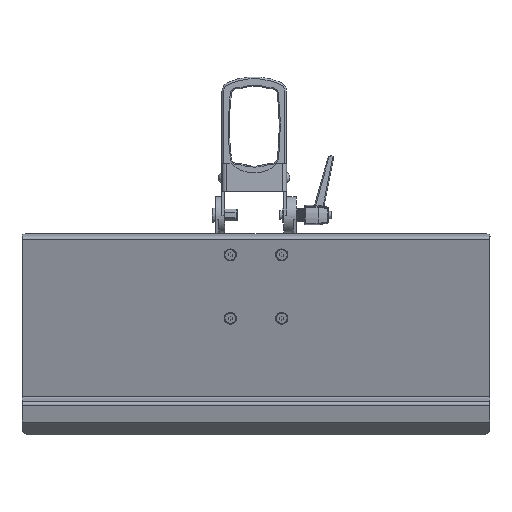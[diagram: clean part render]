
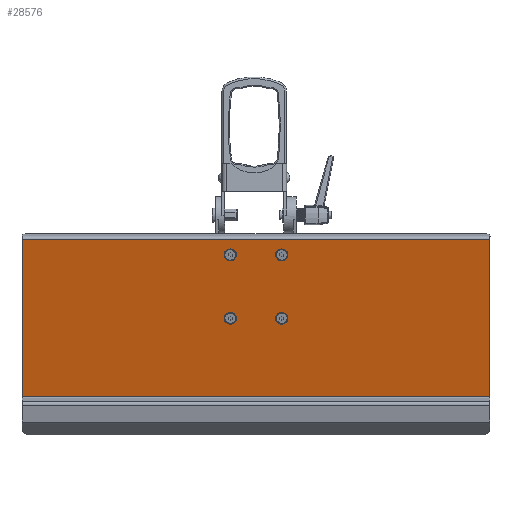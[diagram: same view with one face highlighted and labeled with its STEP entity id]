
A CAD part, top view. The second image highlights one B-rep face of the part: STEP entity #28576.
In plain terms, the highlighted planar face has unit normal (0, -0.259, 0.966).
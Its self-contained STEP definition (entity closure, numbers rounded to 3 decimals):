
#206 = DIRECTION ( 'NONE',  ( 0., -0.966, -0.259 ) ) ;
#541 = VECTOR ( 'NONE', #23973, 1000. ) ;
#1434 = ORIENTED_EDGE ( 'NONE', *, *, #23678, .F. ) ;
#1665 = CARTESIAN_POINT ( 'NONE',  ( 22.237, -132.443, 77.722 ) ) ;
#1977 = CIRCLE ( 'NONE', #47077, 6.6 ) ;
#4104 = CARTESIAN_POINT ( 'NONE',  ( -255.263, -217.444, 54.946 ) ) ;
#4485 = CARTESIAN_POINT ( 'NONE',  ( -32.763, -132.443, 77.722 ) ) ;
#5162 = VERTEX_POINT ( 'NONE', #39187 ) ;
#6418 = EDGE_CURVE ( 'NONE', #5162, #33157, #20151, .T. ) ;
#6985 = VECTOR ( 'NONE', #37243, 1000. ) ;
#7462 = CARTESIAN_POINT ( 'NONE',  ( 22.237, -71.203, 94.131 ) ) ;
#8072 = VERTEX_POINT ( 'NONE', #7462 ) ;
#8621 = AXIS2_PLACEMENT_3D ( 'NONE', #4104, #22789, #50997 ) ;
#9943 = CARTESIAN_POINT ( 'NONE',  ( 244.737, -217.444, 54.946 ) ) ;
#11021 = EDGE_LOOP ( 'NONE', ( #13859 ) ) ;
#11481 = FACE_BOUND ( 'NONE', #58971, .T. ) ;
#11765 = DIRECTION ( 'NONE',  ( 0., 0.259, -0.966 ) ) ;
#11831 = DIRECTION ( 'NONE',  ( 0., -0.966, -0.259 ) ) ;
#13329 = VECTOR ( 'NONE', #52673, 1000. ) ;
#13859 = ORIENTED_EDGE ( 'NONE', *, *, #27901, .T. ) ;
#16047 = AXIS2_PLACEMENT_3D ( 'NONE', #21920, #58420, #11831 ) ;
#16953 = VERTEX_POINT ( 'NONE', #35682 ) ;
#17870 = PLANE ( 'NONE',  #8621 ) ;
#18009 = DIRECTION ( 'NONE',  ( 0., -0.966, -0.259 ) ) ;
#18475 = VERTEX_POINT ( 'NONE', #50688 ) ;
#18791 = ORIENTED_EDGE ( 'NONE', *, *, #6418, .F. ) ;
#19269 = CARTESIAN_POINT ( 'NONE',  ( -255.263, -216.478, 55.205 ) ) ;
#20151 = LINE ( 'NONE', #48982, #13329 ) ;
#21280 = FACE_BOUND ( 'NONE', #11021, .T. ) ;
#21920 = CARTESIAN_POINT ( 'NONE',  ( -32.763, -64.828, 95.84 ) ) ;
#22789 = DIRECTION ( 'NONE',  ( 0., -0.259, 0.966 ) ) ;
#23678 = EDGE_CURVE ( 'NONE', #33157, #34146, #45775, .T. ) ;
#23973 = DIRECTION ( 'NONE',  ( 0., 0.966, 0.259 ) ) ;
#24257 = CIRCLE ( 'NONE', #45789, 6.6 ) ;
#25518 = VERTEX_POINT ( 'NONE', #28232 ) ;
#26000 = VECTOR ( 'NONE', #31939, 1000. ) ;
#26165 = EDGE_LOOP ( 'NONE', ( #39608 ) ) ;
#26601 = ORIENTED_EDGE ( 'NONE', *, *, #31044, .T. ) ;
#27851 = DIRECTION ( 'NONE',  ( 0., 0.259, -0.966 ) ) ;
#27901 = EDGE_CURVE ( 'NONE', #8072, #8072, #24257, .T. ) ;
#27969 = ORIENTED_EDGE ( 'NONE', *, *, #50550, .T. ) ;
#28232 = CARTESIAN_POINT ( 'NONE',  ( 244.737, -48.407, 100.24 ) ) ;
#28576 = ADVANCED_FACE ( 'NONE', ( #11481, #30200, #21280, #58687, #48888 ), #17870, .T. ) ;
#30200 = FACE_BOUND ( 'NONE', #32646, .T. ) ;
#31044 = EDGE_CURVE ( 'NONE', #16953, #16953, #1977, .T. ) ;
#31421 = ORIENTED_EDGE ( 'NONE', *, *, #34583, .T. ) ;
#31939 = DIRECTION ( 'NONE',  ( 1., 0., 0. ) ) ;
#32646 = EDGE_LOOP ( 'NONE', ( #26601 ) ) ;
#33157 = VERTEX_POINT ( 'NONE', #19269 ) ;
#33235 = VERTEX_POINT ( 'NONE', #36893 ) ;
#34146 = VERTEX_POINT ( 'NONE', #57805 ) ;
#34583 = EDGE_CURVE ( 'NONE', #5162, #25518, #51947, .T. ) ;
#35682 = CARTESIAN_POINT ( 'NONE',  ( -32.763, -138.818, 76.014 ) ) ;
#36893 = CARTESIAN_POINT ( 'NONE',  ( 22.237, -138.818, 76.014 ) ) ;
#37243 = DIRECTION ( 'NONE',  ( 0., 0.966, 0.259 ) ) ;
#37774 = CARTESIAN_POINT ( 'NONE',  ( -255.263, -217.444, 54.946 ) ) ;
#39187 = CARTESIAN_POINT ( 'NONE',  ( 244.737, -216.478, 55.205 ) ) ;
#39579 = CIRCLE ( 'NONE', #16047, 6.6 ) ;
#39608 = ORIENTED_EDGE ( 'NONE', *, *, #39876, .T. ) ;
#39876 = EDGE_CURVE ( 'NONE', #18475, #18475, #39579, .T. ) ;
#41143 = LINE ( 'NONE', #59830, #26000 ) ;
#41757 = EDGE_CURVE ( 'NONE', #34146, #25518, #41143, .T. ) ;
#42202 = DIRECTION ( 'NONE',  ( 0., 0.259, -0.966 ) ) ;
#45775 = LINE ( 'NONE', #37774, #541 ) ;
#45789 = AXIS2_PLACEMENT_3D ( 'NONE', #60033, #27851, #18009 ) ;
#47077 = AXIS2_PLACEMENT_3D ( 'NONE', #4485, #42202, #206 ) ;
#48888 = FACE_OUTER_BOUND ( 'NONE', #50911, .T. ) ;
#48982 = CARTESIAN_POINT ( 'NONE',  ( 244.737, -216.478, 55.205 ) ) ;
#49799 = ORIENTED_EDGE ( 'NONE', *, *, #41757, .F. ) ;
#50550 = EDGE_CURVE ( 'NONE', #33235, #33235, #54961, .T. ) ;
#50688 = CARTESIAN_POINT ( 'NONE',  ( -32.763, -71.203, 94.131 ) ) ;
#50911 = EDGE_LOOP ( 'NONE', ( #1434, #18791, #31421, #49799 ) ) ;
#50997 = DIRECTION ( 'NONE',  ( 0., -0.966, -0.259 ) ) ;
#51923 = AXIS2_PLACEMENT_3D ( 'NONE', #1665, #11765, #57759 ) ;
#51947 = LINE ( 'NONE', #9943, #6985 ) ;
#52673 = DIRECTION ( 'NONE',  ( -1., 0., 0. ) ) ;
#54961 = CIRCLE ( 'NONE', #51923, 6.6 ) ;
#57759 = DIRECTION ( 'NONE',  ( 0., -0.966, -0.259 ) ) ;
#57805 = CARTESIAN_POINT ( 'NONE',  ( -255.263, -48.407, 100.24 ) ) ;
#58420 = DIRECTION ( 'NONE',  ( 0., 0.259, -0.966 ) ) ;
#58687 = FACE_BOUND ( 'NONE', #26165, .T. ) ;
#58971 = EDGE_LOOP ( 'NONE', ( #27969 ) ) ;
#59830 = CARTESIAN_POINT ( 'NONE',  ( -255.263, -48.407, 100.24 ) ) ;
#60033 = CARTESIAN_POINT ( 'NONE',  ( 22.237, -64.828, 95.84 ) ) ;
